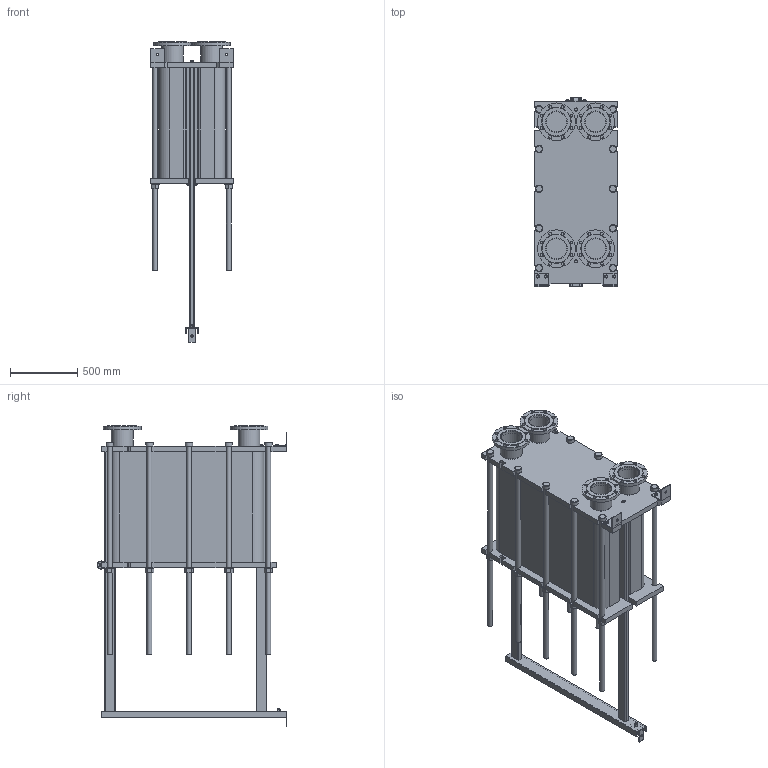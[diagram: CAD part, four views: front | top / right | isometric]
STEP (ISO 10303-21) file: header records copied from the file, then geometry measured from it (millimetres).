
FILE_DESCRIPTION(/* description */ (''),/* implementation_level */ '2;1');
FILE_NAME(/* name */ 'C:\Users\zhuro\Desktop\ENCO\TO\ЭН-041\ЭН-0,5-041-238-1.stp',/* time_stamp */ '2022-06-06T11:08:17+03:00',/* author */ ('zhuro'),/* organization */ (''),/* preprocessor_version */ 'ST-DEVELOPER v18.1',/* originating_system */ 'Autodesk Inventor 2022',/* authorisation */ '');
FILE_SCHEMA (('AUTOMOTIVE_DESIGN { 1 0 10303 214 3 1 1 }'));
Length unit declared in the file: millimetre
Products named in the file (1): ЭН-0,5-041-238-1
Bounding box: 610 x 1406.5 x 2225 mm (x, y, z)
Volume: 551988014.6 mm3; surface area: 12067298 mm2
Topology: 52 solids, 52 shells, 711 faces, 1696 edges, 1094 vertices
Faces by surface type: plane 487, cylinder 177, cone 41, torus 6
Full cylindrical faces by diameter (mm): 8 x4, 10 x2, 16 x8, 18 x3, 22 x32, 36 x24, 50 x1, 54 x10, 60 x12, 151 x4, 161 x8, 280 x4
Entity records: 22667 total; most frequent: CARTESIAN_POINT 5230, DIRECTION 3644, ORIENTED_EDGE 3392, EDGE_CURVE 1696, AXIS2_PLACEMENT_3D 1272, LINE 1100, VECTOR 1100, VERTEX_POINT 1094
